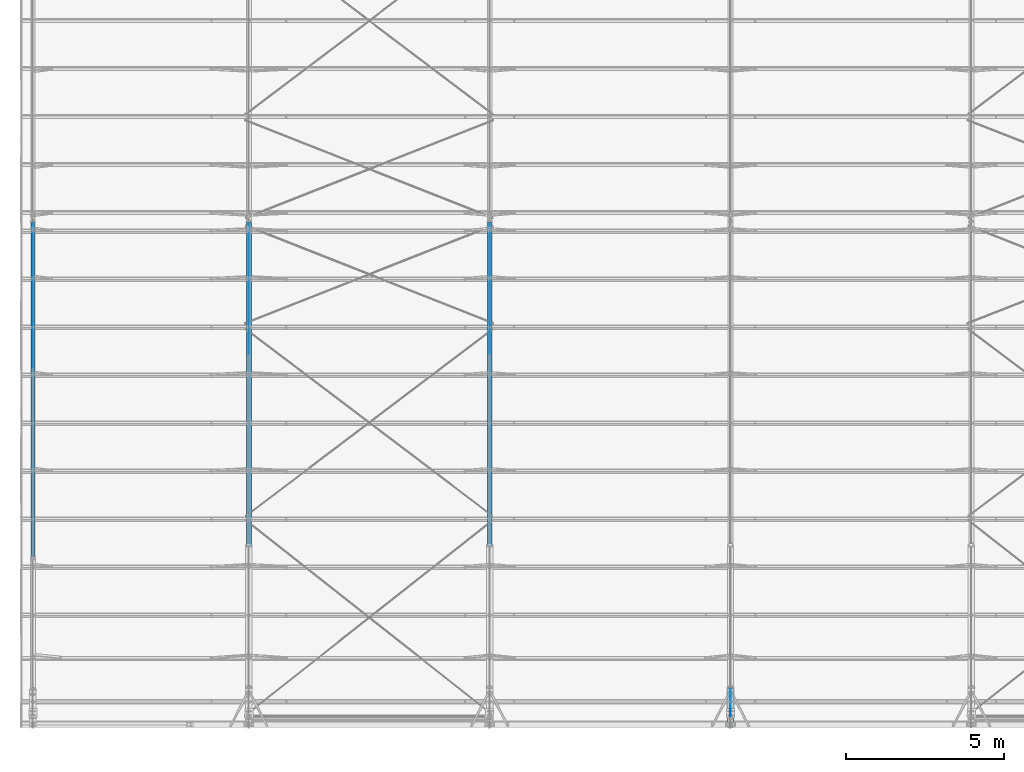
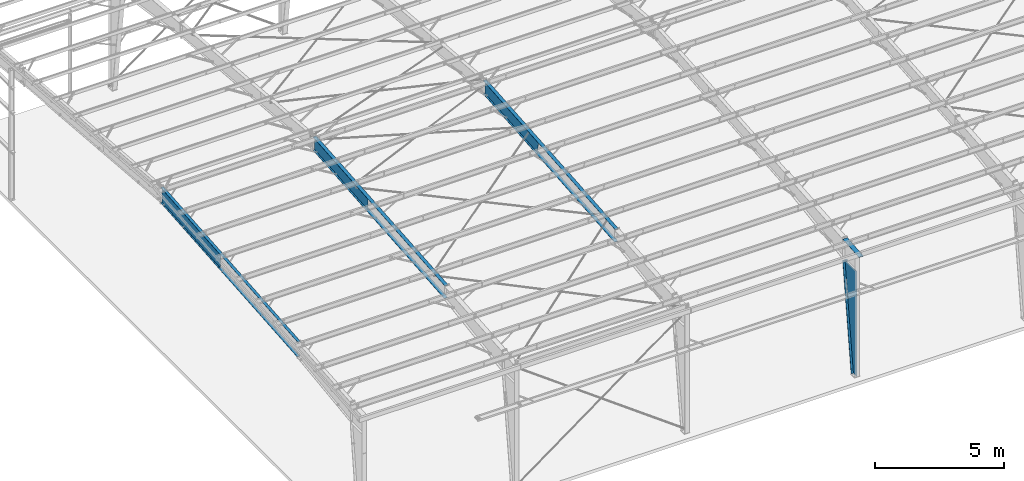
# One storey, part 52 of 185: 12 discrete accessories, 4 elements without a shape of their own.
"""IFC2X3 building model written with IfcOpenShell, lengths in millimetres."""

from ifc_helpers import new_model, si_unit, frame, origin_with_axes, origin_2d_with_axis, place, context, subcontext, project, spatial, rectangle, extrude, clip, halfspace, material, type_object, element, aggregate, save


model = new_model("IFC2X3")

# Units and contexts
model_context = context("Model", 3, precision=1e-05, world=origin_with_axes())
body_context = subcontext(model_context, "Body", "Model", "MODEL_VIEW")
ifc_project = project(units=[si_unit("LENGTHUNIT", "METRE", prefix="MILLI"), si_unit("AREAUNIT", "SQUARE_METRE"), si_unit("VOLUMEUNIT", "CUBIC_METRE"), si_unit("MASSUNIT", "GRAM", prefix="KILO"), si_unit("TIMEUNIT", "SECOND"), si_unit("PLANEANGLEUNIT", "RADIAN"), si_unit("SOLIDANGLEUNIT", "STERADIAN"), si_unit("THERMODYNAMICTEMPERATUREUNIT", "DEGREE_CELSIUS"), si_unit("LUMINOUSINTENSITYUNIT", "LUMEN")], contexts=[model_context])

# Site, building, storey
site_placement = place(None, origin_with_axes())
site = spatial("IfcSite", under=ifc_project, at=site_placement, Name="Undefined", CompositionType="ELEMENT")
building_placement = place(site_placement, origin_with_axes())
building = spatial("IfcBuilding", under=site, at=building_placement, Name="Undefined", CompositionType="ELEMENT")
storey_placement = place(building_placement, origin_with_axes())
storey = spatial("IfcBuildingStorey", under=building, at=storey_placement, Name="Undefined", CompositionType="ELEMENT", Elevation=0.0)

# Assembly, discrete accessory
assembly_1_placement = place(storey_placement, origin_with_axes())
assembly_1 = element("IfcElementAssembly", 1, at=assembly_1_placement, inside=storey, Name="Steel Assembly", AssemblyPlace="NOTDEFINED", PredefinedType="RIGID_FRAME")
ifc_material = material(Name="STEEL/55")
discrete_accessory_type_1 = type_object("IfcDiscreteAccessoryType", Name="Outside Flange")
discrete_accessory_1_placement = place(assembly_1_placement, frame((406.400000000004, 15992.2113305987, 7221.59393800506), z_axis=(1.0, 0.0, 0.0), x_axis=(0.0, -0.996545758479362, -0.0830454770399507)))
discrete_accessory_1 = element("IfcDiscreteAccessory", 2, at=discrete_accessory_1_placement, type_object=discrete_accessory_type_1, material=ifc_material, Name="Outside Flange", ObjectType="FL1/4\"X5\"", context=body_context, shape_type="SweptSolid", body=[
    extrude(rectangle(XDim=6.35, YDim=127.0, at=origin_2d_with_axis()), frame((10685.8945647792, 0.0, 0.0), z_axis=(-1.0, 0.0, 0.0), x_axis=(0.0, -1.0, 0.0)), (0.0, 0.0, 1.0), 10685.9),
])

assembly_2_placement = place(storey_placement, origin_with_axes())
assembly_2 = element("IfcElementAssembly", 3, at=assembly_2_placement, inside=storey, Name="Steel Assembly", AssemblyPlace="NOTDEFINED", PredefinedType="RIGID_FRAME")
discrete_accessory_2_placement = place(assembly_2_placement, frame((14859.0, 15988.9730499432, 7220.48297949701), z_axis=(1.0, 0.0, 0.0), x_axis=(0.0, -0.996545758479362, -0.0830454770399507)))
discrete_accessory_2 = element("IfcDiscreteAccessory", 4, at=discrete_accessory_2_placement, type_object=discrete_accessory_type_1, material=ifc_material, Name="Outside Flange", ObjectType="FL5/16\"X6\"", context=body_context, shape_type="SweptSolid", body=[
    extrude(rectangle(XDim=7.874, YDim=152.4, at=origin_2d_with_axis()), frame((10276.4296125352, 1.96160351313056e-12, 0.0), z_axis=(-1.0, 0.0, 0.0), x_axis=(0.0, -1.0, 0.0)), (0.0, 0.0, 1.0), 10276.4),
])

assembly_3_placement = place(storey_placement, origin_with_axes())
assembly_3 = element("IfcElementAssembly", 5, at=assembly_3_placement, inside=storey, Name="Steel Assembly", AssemblyPlace="NOTDEFINED", PredefinedType="RIGID_FRAME")
discrete_accessory_3_placement = place(assembly_3_placement, frame((7239.0, 15988.9730499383, 7220.4829794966), z_axis=(1.0, 0.0, 0.0), x_axis=(0.0, -0.996545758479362, -0.0830454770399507)))
discrete_accessory_3 = element("IfcDiscreteAccessory", 6, at=discrete_accessory_3_placement, type_object=discrete_accessory_type_1, material=ifc_material, Name="Outside Flange", ObjectType="FL5/16\"X6\"", context=body_context, shape_type="SweptSolid", body=[
    extrude(rectangle(XDim=7.874, YDim=152.4, at=origin_2d_with_axis()), frame((10276.4296125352, 1.96160351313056e-12, 0.0), z_axis=(-1.0, 0.0, 0.0), x_axis=(0.0, -1.0, 0.0)), (0.0, 0.0, 1.0), 10276.4),
])

# Discrete accessory
discrete_accessory_type_2 = type_object("IfcDiscreteAccessoryType", Name="Inside Flange")
discrete_accessory_4_placement = place(assembly_1_placement, frame((406.399999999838, 15992.2113305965, 6501.55675550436), z_axis=(1.0, 0.0, 0.0), x_axis=(0.0, -0.996545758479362, -0.0830454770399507)))
discrete_accessory_4 = element("IfcDiscreteAccessory", 7, at=discrete_accessory_4_placement, type_object=discrete_accessory_type_2, material=ifc_material, Name="Inside Flange", ObjectType="FL1/4\"X5\"", context=body_context, shape_type="SweptSolid", body=[
    extrude(rectangle(XDim=6.35, YDim=127.0, at=origin_2d_with_axis()), frame((10626.0987314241, 0.0, 0.0), z_axis=(-1.0, 0.0, 0.0), x_axis=(0.0, -1.0, 0.0)), (0.0, 0.0, 1.0), 10626.1),
])

# Assembly, discrete accessory
assembly_4_placement = place(storey_placement, origin_with_axes())
assembly_4 = element("IfcElementAssembly", 8, at=assembly_4_placement, inside=storey, Name="Steel Assembly", AssemblyPlace="NOTDEFINED", PredefinedType="RIGID_FRAME")
discrete_accessory_5_placement = place(assembly_4_placement, frame((22478.9999999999, 603.414073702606, 16.7042436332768), z_axis=(-1.0, 0.0, 0.0), x_axis=(0.0, 0.130589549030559, 0.991436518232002)))
discrete_accessory_5 = element("IfcDiscreteAccessory", 9, at=discrete_accessory_5_placement, type_object=discrete_accessory_type_2, material=ifc_material, Name="Inside Flange", ObjectType="FL1/2\"X8\"", context=body_context, shape_type="SweptSolid", body=[
    extrude(rectangle(XDim=12.7, YDim=203.2, at=origin_2d_with_axis()), frame((5018.43796554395, 1.39289634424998e-13, 0.0), z_axis=(-1.0, 0.0, 0.0), x_axis=(0.0, -1.0, 0.0)), (0.0, 0.0, 1.0), 5018.4),
])

# Discrete accessory
discrete_accessory_6_placement = place(assembly_2_placement, frame((14858.9999999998, 15988.9044958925, 6600.03460772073), z_axis=(1.0, 0.0, 0.0), x_axis=(0.0, -0.996545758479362, -0.0830454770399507)))
discrete_accessory_6 = element("IfcDiscreteAccessory", 10, at=discrete_accessory_6_placement, type_object=discrete_accessory_type_2, material=ifc_material, Name="Inside Flange", ObjectType="FL3/8\"X6\"", context=body_context, shape_type="SweptSolid", body=[
    extrude(rectangle(XDim=9.525, YDim=152.4, at=origin_2d_with_axis()), frame((10224.8358624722, 0.0, 0.0), z_axis=(-1.0, 0.0, 0.0), x_axis=(0.0, -1.0, 0.0)), (0.0, 0.0, 1.0), 10224.8),
])

discrete_accessory_7_placement = place(assembly_3_placement, frame((7238.99999999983, 15988.9044958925, 6600.03460772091), z_axis=(1.0, 0.0, 0.0), x_axis=(0.0, -0.996545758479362, -0.0830454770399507)))
discrete_accessory_7 = element("IfcDiscreteAccessory", 11, at=discrete_accessory_7_placement, type_object=discrete_accessory_type_2, material=ifc_material, Name="Inside Flange", ObjectType="FL3/8\"X6\"", context=body_context, shape_type="SweptSolid", body=[
    extrude(rectangle(XDim=9.525, YDim=152.4, at=origin_2d_with_axis()), frame((10224.8358624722, 0.0, 0.0), z_axis=(-1.0, 0.0, 0.0), x_axis=(0.0, -1.0, 0.0)), (0.0, 0.0, 1.0), 10224.8),
])

discrete_accessory_type_3 = type_object("IfcDiscreteAccessoryType", Name="Web")
discrete_accessory_8_placement = place(assembly_1_placement, frame((406.400000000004, 11447.9660130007, 6482.88823695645), z_axis=(0.0, -0.0830454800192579, 0.996545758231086), x_axis=(0.0, 0.996545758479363, 0.0830454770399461)))
discrete_accessory_8 = element("IfcDiscreteAccessory", 12, at=discrete_accessory_8_placement, type_object=discrete_accessory_type_3, material=ifc_material, Name="Web", ObjectType="PL3/16\"X28\"", context=body_context, shape_type="Clipping", body=[
    clip(extrude(rectangle(XDim=4.762, YDim=711.2, at=origin_2d_with_axis()), frame((4649.63740877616, 0.0, 0.0), z_axis=(-1.0, 0.0, 0.0), x_axis=(0.0, -1.0, 0.0)), (0.0, 0.0, 1.0), 4649.6), halfspace(frame((4589.96048226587, 0.0, 356.391007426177), z_axis=(-0.996545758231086, 0.0, 0.0830454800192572), x_axis=(0.0, -1.0, 0.0)), True)),
])

aggregate(assembly_1, [discrete_accessory_1, discrete_accessory_4, discrete_accessory_8])

discrete_accessory_9_placement = place(assembly_4_placement, frame((22479.0, 782.574, 15.875), z_axis=(0.0, 0.0, 1.0), x_axis=(0.0, -1.0, 0.0)))
discrete_accessory_9 = element("IfcDiscreteAccessory", 13, at=discrete_accessory_9_placement, type_object=discrete_accessory_type_3, material=ifc_material, Name="Web", ObjectType="PL3/16\"X37\"", context=body_context, shape_type="Clipping", body=[
    clip(extrude(rectangle(XDim=4.7625, YDim=939.8, at=origin_2d_with_axis()), frame((0.0, 0.0, 4977.1211511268), z_axis=(0.0, 0.0, -1.0), x_axis=(0.0, 1.0, 0.0)), (0.0, 0.0, 1.0), 4977.1), halfspace(frame((-469.9, -2.38124999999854, 4977.12115112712), z_axis=(-0.991436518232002, 0.0, -0.130589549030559), x_axis=(0.130589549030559, 0.0, -0.991436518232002)), False)),
])

discrete_accessory_10_placement = place(assembly_2_placement, frame((14859.0, 11848.6228640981, 6565.64664855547), z_axis=(0.0, -0.0830454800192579, 0.996545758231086), x_axis=(0.0, 0.996545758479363, 0.0830454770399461)))
discrete_accessory_10 = element("IfcDiscreteAccessory", 14, at=discrete_accessory_10_placement, type_object=discrete_accessory_type_3, material=ifc_material, Name="Web", ObjectType="PL3/16\"X24\"", context=body_context, shape_type="Clipping", body=[
    clip(extrude(rectangle(XDim=4.762, YDim=609.6, at=origin_2d_with_axis()), frame((4231.63776454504, 0.0, 5.87257709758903e-14), z_axis=(-1.0, 0.0, 0.0), x_axis=(0.0, -1.0, 0.0)), (0.0, 0.0, 1.0), 4231.6), halfspace(frame((4180.5175024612, 0.0, 305.854676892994), z_axis=(-0.996545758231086, 0.0, 0.0830454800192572), x_axis=(0.0, -1.0, 0.0)), True)),
])

aggregate(assembly_2, [discrete_accessory_2, discrete_accessory_6, discrete_accessory_10])

discrete_accessory_11_placement = place(assembly_3_placement, frame((7239.0, 11848.6228640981, 6565.64664855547), z_axis=(0.0, -0.0830454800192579, 0.996545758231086), x_axis=(0.0, 0.996545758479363, 0.0830454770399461)))
discrete_accessory_11 = element("IfcDiscreteAccessory", 15, at=discrete_accessory_11_placement, type_object=discrete_accessory_type_3, material=ifc_material, Name="Web", ObjectType="PL3/16\"X24\"", context=body_context, shape_type="Clipping", body=[
    clip(extrude(rectangle(XDim=4.762, YDim=609.6, at=origin_2d_with_axis()), frame((4231.63776454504, 0.0, 5.87257709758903e-14), z_axis=(-1.0, 0.0, 0.0), x_axis=(0.0, -1.0, 0.0)), (0.0, 0.0, 1.0), 4231.6), halfspace(frame((4180.5175024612, 0.0, 305.854676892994), z_axis=(-0.996545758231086, 0.0, 0.0830454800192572), x_axis=(0.0, -1.0, 0.0)), True)),
])

aggregate(assembly_3, [discrete_accessory_7, discrete_accessory_11, discrete_accessory_3])

discrete_accessory_type_4 = type_object("IfcDiscreteAccessoryType", Name="Cap Plate")
discrete_accessory_12_placement = place(assembly_4_placement, frame((22479.0, 0.330114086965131, 5888.13429608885), z_axis=(-1.0, 0.0, 0.0), x_axis=(0.0, 0.996545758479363, 0.0830454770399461)))
discrete_accessory_12 = element("IfcDiscreteAccessory", 16, at=discrete_accessory_12_placement, type_object=discrete_accessory_type_4, material=ifc_material, Name="Cap Plate", ObjectType="FL5/16\"X8\"", context=body_context, shape_type="SweptSolid", body=[
    extrude(rectangle(XDim=7.9502, YDim=203.2, at=origin_2d_with_axis()), frame((1256.15282737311, 0.0, 0.0), z_axis=(-1.0, 0.0, 0.0), x_axis=(0.0, -1.0, 0.0)), (0.0, 0.0, 1.0), 1256.2),
])

aggregate(assembly_4, [discrete_accessory_12, discrete_accessory_9, discrete_accessory_5])

save(model, "model.ifc")
